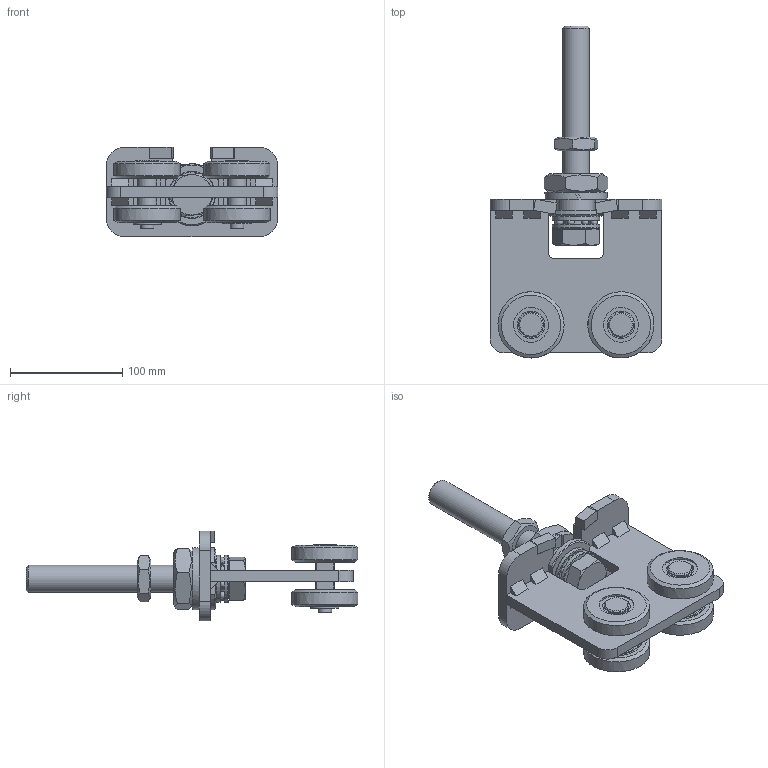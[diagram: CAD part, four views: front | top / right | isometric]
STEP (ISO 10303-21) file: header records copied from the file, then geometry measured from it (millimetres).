
FILE_DESCRIPTION(/* description */ ('Doppelrolle Horizontal Nr.4'),/* implementation_level */ '2;1');
FILE_NAME(/* name */ 'Q:\sge-ma\Produktmanagement-STB\STB\Workspace\TraceParts\Doppelrolle horizontrale drehbar\010336482.stp',/* time_stamp */ '2018-02-21T16:09:02+01:00',/* author */ ('avschreier'),/* organization */ (''),/* preprocessor_version */ 'ST-DEVELOPER v16.1',/* originating_system */ 'Autodesk Inventor 2016',/* authorisation */ '');
FILE_SCHEMA (('CONFIG_CONTROL_DESIGN'));
Length unit declared in the file: millimetre
Products named in the file (16): 010336482_Schweißnähte; 000302084; 000302085; 337000287; DIN_625-6203_ZZ_en; 000303241; 000302081; 000302018; 000302019; DIN_711-51105_en; DIN_EN_ISO_4035-M24x2_en; DIN_EN_ISO_4017-M24x180_en; DIN_EN_ISO_4035-M33_en; DIN_1440-12_en; DIN_127-A33_en; 010336482
Assembly tree (27 placements, depth 3):
  010336482
    010336482_Schweißnähte
    000302084
    000302085
    000303241  x4
      337000287
      DIN_625-6203_ZZ_en
    000302081  x8
    000302018  x2
    000302019
    DIN_711-51105_en
    DIN_EN_ISO_4035-M24x2_en
    DIN_EN_ISO_4017-M24x180_en
    DIN_EN_ISO_4035-M33_en
    DIN_1440-12_en  x2
    DIN_127-A33_en
Bounding box: 153 x 295.32 x 80 mm (x, y, z)
Volume: 586646.3 mm3; surface area: 200885.5 mm2
Topology: 45 solids, 49 shells, 609 faces, 1594 edges, 1044 vertices
Faces by surface type: plane 324, cylinder 114, torus 92, cone 39, sphere 36, bspline 4
Full cylindrical faces by diameter (mm): 12 x4, 16.9 x2, 17 x4, 21.835 x1, 22 x2, 22.376 x1, 24 x1, 24.36 x16, 24.5 x1, 25 x3, 26 x1, 29.211 x1, 31 x4, 32.64 x16, 33 x1, 33.2 x1, 40 x8, 42 x2
Entity records: 8986 total; most frequent: CARTESIAN_POINT 1691, DIRECTION 1522, ORIENTED_EDGE 1318, EDGE_CURVE 643, AXIS2_PLACEMENT_3D 597, VERTEX_POINT 448, EDGE_LOOP 417, LINE 328
